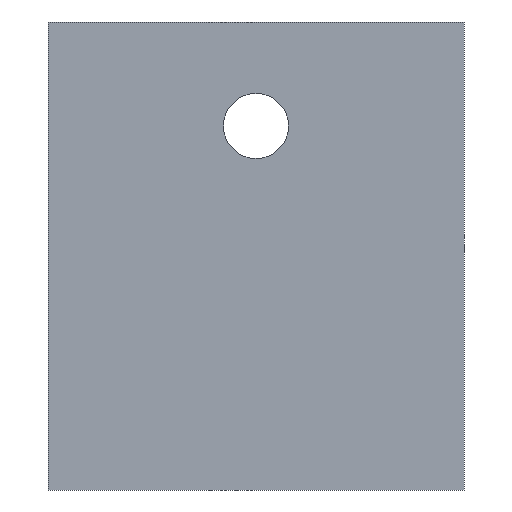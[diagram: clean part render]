
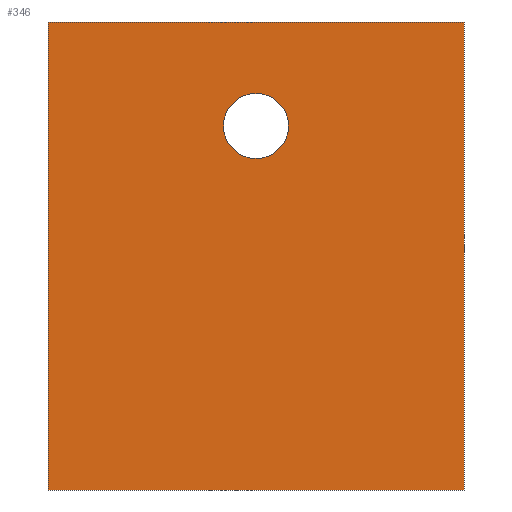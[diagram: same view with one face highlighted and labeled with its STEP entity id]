
A CAD part, front view. The second image highlights one B-rep face of the part: STEP entity #346.
In plain terms, the highlighted planar face has unit normal (0, -1, 0).
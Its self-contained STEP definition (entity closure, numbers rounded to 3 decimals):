
#24 = VERTEX_POINT('',#25);
#25 = CARTESIAN_POINT('',(669.,-20.,-28.));
#32 = PLANE('',#33);
#33 = AXIS2_PLACEMENT_3D('',#34,#35,#36);
#34 = CARTESIAN_POINT('',(669.,-15.,-28.));
#35 = DIRECTION('',(-0.,0.,1.));
#36 = DIRECTION('',(1.,0.,0.));
#44 = PLANE('',#45);
#45 = AXIS2_PLACEMENT_3D('',#46,#47,#48);
#46 = CARTESIAN_POINT('',(669.,-15.,8.));
#47 = DIRECTION('',(1.,0.,0.));
#48 = DIRECTION('',(0.,0.,-1.));
#56 = EDGE_CURVE('',#24,#57,#59,.T.);
#57 = VERTEX_POINT('',#58);
#58 = CARTESIAN_POINT('',(701.,-20.,-28.));
#59 = SURFACE_CURVE('',#60,(#64,#71),.PCURVE_S1.);
#60 = LINE('',#61,#62);
#61 = CARTESIAN_POINT('',(669.,-20.,-28.));
#62 = VECTOR('',#63,1.);
#63 = DIRECTION('',(1.,0.,0.));
#64 = PCURVE('',#32,#65);
#65 = DEFINITIONAL_REPRESENTATION('',(#66),#70);
#66 = LINE('',#67,#68);
#67 = CARTESIAN_POINT('',(0.,-5.));
#68 = VECTOR('',#69,1.);
#69 = DIRECTION('',(1.,0.));
#70 = ( GEOMETRIC_REPRESENTATION_CONTEXT(2) 
PARAMETRIC_REPRESENTATION_CONTEXT() REPRESENTATION_CONTEXT('2D SPACE',''
  ) );
#71 = PCURVE('',#72,#77);
#72 = PLANE('',#73);
#73 = AXIS2_PLACEMENT_3D('',#74,#75,#76);
#74 = CARTESIAN_POINT('',(685.,-20.,-10.));
#75 = DIRECTION('',(-0.,-1.,-0.));
#76 = DIRECTION('',(0.,0.,-1.));
#77 = DEFINITIONAL_REPRESENTATION('',(#78),#82);
#78 = LINE('',#79,#80);
#79 = CARTESIAN_POINT('',(18.,-16.));
#80 = VECTOR('',#81,1.);
#81 = DIRECTION('',(0.,1.));
#82 = ( GEOMETRIC_REPRESENTATION_CONTEXT(2) 
PARAMETRIC_REPRESENTATION_CONTEXT() REPRESENTATION_CONTEXT('2D SPACE',''
  ) );
#100 = PLANE('',#101);
#101 = AXIS2_PLACEMENT_3D('',#102,#103,#104);
#102 = CARTESIAN_POINT('',(701.,-15.,-28.));
#103 = DIRECTION('',(-1.,0.,0.));
#104 = DIRECTION('',(0.,0.,1.));
#144 = VERTEX_POINT('',#145);
#145 = CARTESIAN_POINT('',(669.,-20.,8.));
#159 = PLANE('',#160);
#160 = AXIS2_PLACEMENT_3D('',#161,#162,#163);
#161 = CARTESIAN_POINT('',(701.,-15.,8.));
#162 = DIRECTION('',(-0.,-0.,-1.));
#163 = DIRECTION('',(-1.,0.,0.));
#171 = EDGE_CURVE('',#144,#24,#172,.T.);
#172 = SURFACE_CURVE('',#173,(#177,#184),.PCURVE_S1.);
#173 = LINE('',#174,#175);
#174 = CARTESIAN_POINT('',(669.,-20.,8.));
#175 = VECTOR('',#176,1.);
#176 = DIRECTION('',(0.,0.,-1.));
#177 = PCURVE('',#44,#178);
#178 = DEFINITIONAL_REPRESENTATION('',(#179),#183);
#179 = LINE('',#180,#181);
#180 = CARTESIAN_POINT('',(0.,-5.));
#181 = VECTOR('',#182,1.);
#182 = DIRECTION('',(1.,0.));
#183 = ( GEOMETRIC_REPRESENTATION_CONTEXT(2) 
PARAMETRIC_REPRESENTATION_CONTEXT() REPRESENTATION_CONTEXT('2D SPACE',''
  ) );
#184 = PCURVE('',#72,#185);
#185 = DEFINITIONAL_REPRESENTATION('',(#186),#190);
#186 = LINE('',#187,#188);
#187 = CARTESIAN_POINT('',(-18.,-16.));
#188 = VECTOR('',#189,1.);
#189 = DIRECTION('',(1.,0.));
#190 = ( GEOMETRIC_REPRESENTATION_CONTEXT(2) 
PARAMETRIC_REPRESENTATION_CONTEXT() REPRESENTATION_CONTEXT('2D SPACE',''
  ) );
#218 = EDGE_CURVE('',#57,#219,#221,.T.);
#219 = VERTEX_POINT('',#220);
#220 = CARTESIAN_POINT('',(701.,-20.,8.));
#221 = SURFACE_CURVE('',#222,(#226,#233),.PCURVE_S1.);
#222 = LINE('',#223,#224);
#223 = CARTESIAN_POINT('',(701.,-20.,-28.));
#224 = VECTOR('',#225,1.);
#225 = DIRECTION('',(0.,0.,1.));
#226 = PCURVE('',#100,#227);
#227 = DEFINITIONAL_REPRESENTATION('',(#228),#232);
#228 = LINE('',#229,#230);
#229 = CARTESIAN_POINT('',(0.,-5.));
#230 = VECTOR('',#231,1.);
#231 = DIRECTION('',(1.,0.));
#232 = ( GEOMETRIC_REPRESENTATION_CONTEXT(2) 
PARAMETRIC_REPRESENTATION_CONTEXT() REPRESENTATION_CONTEXT('2D SPACE',''
  ) );
#233 = PCURVE('',#72,#234);
#234 = DEFINITIONAL_REPRESENTATION('',(#235),#239);
#235 = LINE('',#236,#237);
#236 = CARTESIAN_POINT('',(18.,16.));
#237 = VECTOR('',#238,1.);
#238 = DIRECTION('',(-1.,0.));
#239 = ( GEOMETRIC_REPRESENTATION_CONTEXT(2) 
PARAMETRIC_REPRESENTATION_CONTEXT() REPRESENTATION_CONTEXT('2D SPACE',''
  ) );
#335 = CYLINDRICAL_SURFACE('',#336,2.5);
#336 = AXIS2_PLACEMENT_3D('',#337,#338,#339);
#337 = CARTESIAN_POINT('',(685.,-9.,0.));
#338 = DIRECTION('',(-0.,1.,-0.));
#339 = DIRECTION('',(1.,0.,0.));
#346 = ADVANCED_FACE('',(#347,#373),#72,.T.);
#347 = FACE_BOUND('',#348,.T.);
#348 = EDGE_LOOP('',(#349,#350,#351,#372));
#349 = ORIENTED_EDGE('',*,*,#56,.T.);
#350 = ORIENTED_EDGE('',*,*,#218,.T.);
#351 = ORIENTED_EDGE('',*,*,#352,.T.);
#352 = EDGE_CURVE('',#219,#144,#353,.T.);
#353 = SURFACE_CURVE('',#354,(#358,#365),.PCURVE_S1.);
#354 = LINE('',#355,#356);
#355 = CARTESIAN_POINT('',(701.,-20.,8.));
#356 = VECTOR('',#357,1.);
#357 = DIRECTION('',(-1.,0.,0.));
#358 = PCURVE('',#72,#359);
#359 = DEFINITIONAL_REPRESENTATION('',(#360),#364);
#360 = LINE('',#361,#362);
#361 = CARTESIAN_POINT('',(-18.,16.));
#362 = VECTOR('',#363,1.);
#363 = DIRECTION('',(0.,-1.));
#364 = ( GEOMETRIC_REPRESENTATION_CONTEXT(2) 
PARAMETRIC_REPRESENTATION_CONTEXT() REPRESENTATION_CONTEXT('2D SPACE',''
  ) );
#365 = PCURVE('',#159,#366);
#366 = DEFINITIONAL_REPRESENTATION('',(#367),#371);
#367 = LINE('',#368,#369);
#368 = CARTESIAN_POINT('',(0.,-5.));
#369 = VECTOR('',#370,1.);
#370 = DIRECTION('',(1.,0.));
#371 = ( GEOMETRIC_REPRESENTATION_CONTEXT(2) 
PARAMETRIC_REPRESENTATION_CONTEXT() REPRESENTATION_CONTEXT('2D SPACE',''
  ) );
#372 = ORIENTED_EDGE('',*,*,#171,.T.);
#373 = FACE_BOUND('',#374,.T.);
#374 = EDGE_LOOP('',(#375));
#375 = ORIENTED_EDGE('',*,*,#376,.T.);
#376 = EDGE_CURVE('',#377,#377,#379,.T.);
#377 = VERTEX_POINT('',#378);
#378 = CARTESIAN_POINT('',(687.5,-20.,0.));
#379 = SURFACE_CURVE('',#380,(#385,#396),.PCURVE_S1.);
#380 = CIRCLE('',#381,2.5);
#381 = AXIS2_PLACEMENT_3D('',#382,#383,#384);
#382 = CARTESIAN_POINT('',(685.,-20.,0.));
#383 = DIRECTION('',(-0.,1.,0.));
#384 = DIRECTION('',(1.,0.,0.));
#385 = PCURVE('',#72,#386);
#386 = DEFINITIONAL_REPRESENTATION('',(#387),#395);
#387 = ( BOUNDED_CURVE() B_SPLINE_CURVE(2,(#388,#389,#390,#391,#392,#393
,#394),.UNSPECIFIED.,.T.,.F.) B_SPLINE_CURVE_WITH_KNOTS((1,2,2,2,2,1),(
    -2.094,0.,2.094,4.189,6.283,
8.378),.UNSPECIFIED.) CURVE() GEOMETRIC_REPRESENTATION_ITEM() 
RATIONAL_B_SPLINE_CURVE((1.,0.5,1.,0.5,1.,0.5,1.)) REPRESENTATION_ITEM(
  '') );
#388 = CARTESIAN_POINT('',(-10.,2.5));
#389 = CARTESIAN_POINT('',(-5.67,2.5));
#390 = CARTESIAN_POINT('',(-7.835,-1.25));
#391 = CARTESIAN_POINT('',(-10.,-5.));
#392 = CARTESIAN_POINT('',(-12.165,-1.25));
#393 = CARTESIAN_POINT('',(-14.33,2.5));
#394 = CARTESIAN_POINT('',(-10.,2.5));
#395 = ( GEOMETRIC_REPRESENTATION_CONTEXT(2) 
PARAMETRIC_REPRESENTATION_CONTEXT() REPRESENTATION_CONTEXT('2D SPACE',''
  ) );
#396 = PCURVE('',#335,#397);
#397 = DEFINITIONAL_REPRESENTATION('',(#398),#402);
#398 = LINE('',#399,#400);
#399 = CARTESIAN_POINT('',(-6.283,-11.));
#400 = VECTOR('',#401,1.);
#401 = DIRECTION('',(1.,-0.));
#402 = ( GEOMETRIC_REPRESENTATION_CONTEXT(2) 
PARAMETRIC_REPRESENTATION_CONTEXT() REPRESENTATION_CONTEXT('2D SPACE',''
  ) );
